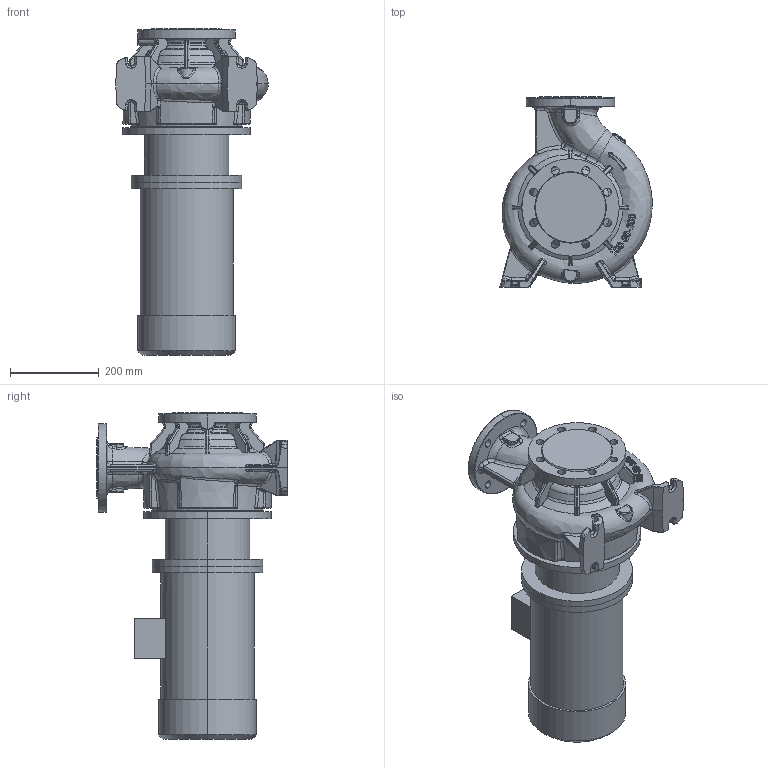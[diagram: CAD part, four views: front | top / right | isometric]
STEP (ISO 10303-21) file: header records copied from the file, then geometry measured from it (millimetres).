
FILE_DESCRIPTION (( 'STEP AP214' ), '1' );
FILE_NAME ('KRM 100-80-200-4-4.STEP', '2026-04-22T12:58:24', ( '' ), ( '' ), 'SwSTEP 2.0', 'SolidWorks 2016', '' );
FILE_SCHEMA (( 'AUTOMOTIVE_DESIGN' ));
Length unit declared in the file: millimetre
Products named in the file (1): KRM 100-80-200-4-4
Bounding box: 344.62 x 430 x 737.8 mm (x, y, z)
Volume: 33896652.9 mm3; surface area: 1336535.2 mm2
Topology: 14 solids, 14 shells, 1355 faces, 3237 edges, 1925 vertices
Faces by surface type: bspline 620, cylinder 300, plane 207, torus 119, cone 81, sphere 28
Entity records: 105995 total; most frequent: CARTESIAN_POINT 64295, ORIENTED_EDGE 6454, DIRECTION 4388, EDGE_CURVE 3227, VERTEX_POINT 1925, AXIS2_PLACEMENT_3D 1835, EDGE_LOOP 1418, UNCERTAINTY_MEASURE_WITH_UNIT 1371
